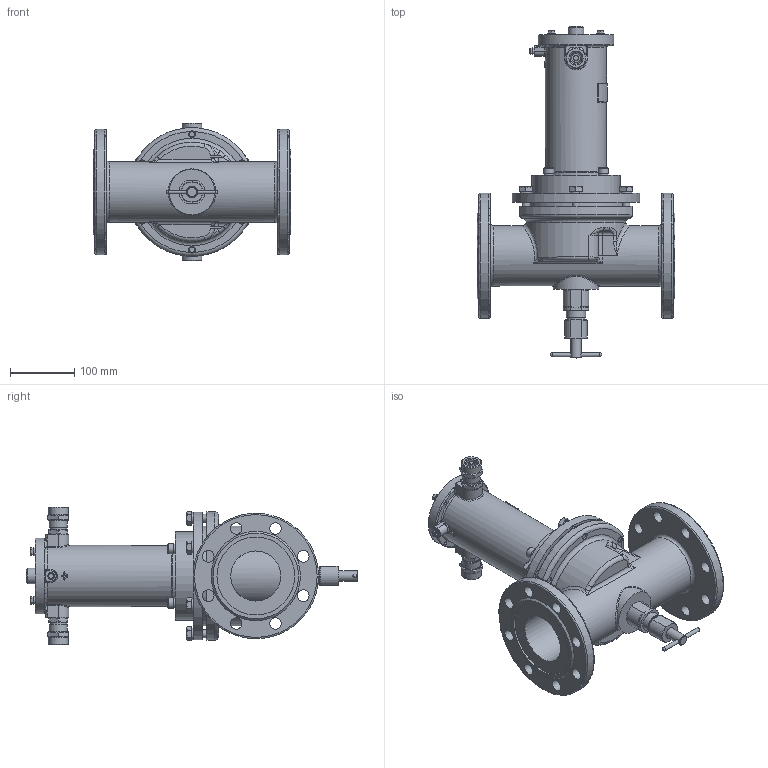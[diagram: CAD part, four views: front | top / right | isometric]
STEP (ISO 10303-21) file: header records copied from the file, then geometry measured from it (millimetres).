
FILE_DESCRIPTION(('STEP AP203'), '1');
FILE_NAME('ÑÅÍÑ-ÏÐ DN80PN25-ÑÂ.stp', '2018-10-09T07:54:34', ('Îðëîâ Å.Â.'), ('ÎÎÎ ÍÏÏ Ñåíñîð'), 'ASCON STEP Converter 1.3', 'Kompas 3D', '');
FILE_SCHEMA(('CONFIG_CONTROL_DESIGN','SUPPORT_RESOURCE_SCHEMA'));
Length unit declared in the file: millimetre
Products named in the file (1): 9
Bounding box: 308 x 516.5 x 214 mm (x, y, z)
Volume: 3416363.2 mm3; surface area: 744823.2 mm2
Topology: 3 solids, 23 shells, 2131 faces, 5628 edges, 3634 vertices
Faces by surface type: cylinder 1040, plane 811, cone 151, bspline 56, torus 49, extrusion 16, sphere 8
Full cylindrical faces by diameter (mm): 3.5 x2, 4.134 x1, 4.917 x4, 5 x1, 6 x9, 6.5 x4, 8 x8, 8.2 x1, 8.376 x4, 10 x5, 10.106 x6, 11 x5, 12 x10, 13 x8, 16 x6, 17 x2, 18 x17, 18.632 x2, 20 x3, 22 x2, 22.376 x2, 23 x1, 23.5 x2, 24 x3, 24.5 x2, 26 x4, 26.376 x2, 27.8 x1, 28 x3, 28.5 x2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
Entity records: 84985 total; most frequent: CARTESIAN_POINT 31278, DIRECTION 11559, ORIENTED_EDGE 11194, EDGE_CURVE 5597, AXIS2_PLACEMENT_3D 4455, VERTEX_POINT 3634, VECTOR 2649, LINE 2633
